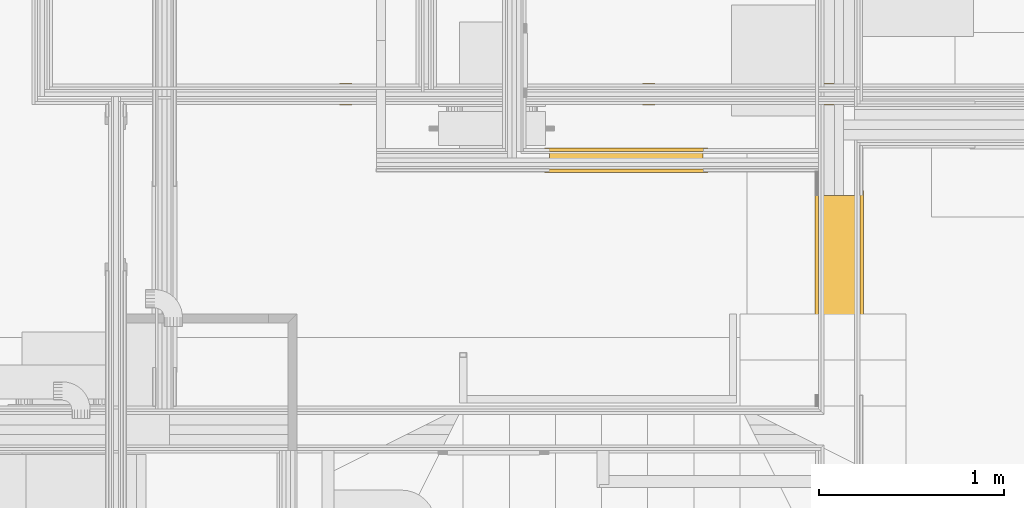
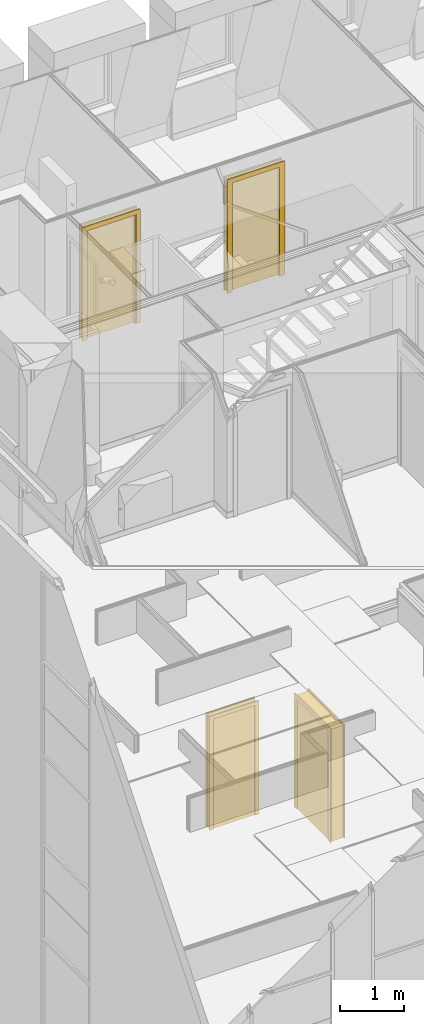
# One storey, part 108 of 169: 4 doors.
"""IFC2X3 building model written with IfcOpenShell, lengths in metres."""

import ifcopenshell
import ifcopenshell.guid

model = None  # the IFC model being written
_history = None  # IfcOwnerHistory: only IFC2X3 demands one
_inside = {}  # id of a spatial element -> (the spatial element, [elements in it])
_under = {}  # id of a project, library or spatial element -> (it, [spatial elements below it])
_declared = {}  # id of a project -> (the project, [libraries it declares])
_typed = {}  # id of a type object -> (the type object, [elements of that type])
_made_of = {}  # id of a material, layer set ... -> (it, [elements and type objects made of it])


def new_model(schema):
    """Start an empty IFC model of exactly this schema.

    Asked for "IFC4X3", IfcOpenShell would pick the latest addendum, in which some entities
    have other attributes; the version numbers below select the first issue.
    IFC2X3 requires an IfcOwnerHistory on every rooted entity: one is made here for all.
    """
    global model, _history
    if schema == "IFC4X3":
        model = ifcopenshell.file(schema_version=(4, 3, 0, 0))
    else:
        model = ifcopenshell.file(schema=schema)
    _inside.clear()
    _under.clear()
    _declared.clear()
    _typed.clear()
    _made_of.clear()
    _history = None
    if model.schema == "IFC2X3":
        org = make("IfcOrganization", Name="unknown")
        user = make(
            "IfcPersonAndOrganization",
            ThePerson=make("IfcPerson", FamilyName="unknown"),
            TheOrganization=org,
        )
        app = make(
            "IfcApplication",
            ApplicationDeveloper=org,
            Version="unknown",
            ApplicationFullName="unknown",
            ApplicationIdentifier="unknown",
        )
        _history = make(
            "IfcOwnerHistory",
            OwningUser=user,
            OwningApplication=app,
            ChangeAction="ADDED",
            CreationDate=0,
        )
    return model


def make(cls, **values):
    """One entity of the class cls with the attributes given. An attribute that is None is left unset."""
    return model.create_entity(
        cls, **{name: value for name, value in values.items() if value is not None}
    )


def entity(cls, *values):
    """Any entity or typed value of the class cls, its attributes in the order of the schema. None: left unset."""
    e = model.create_entity(cls)
    for i, value in enumerate(values):
        if value is not None:
            e[i] = value
    return e


def rooted(cls, **values):
    """An entity with a GlobalId (a new one), such as an element, a storey or a relation."""
    return make(cls, GlobalId=ifcopenshell.guid.new(), OwnerHistory=_history, **values)


def si_unit(unit_type, name, prefix=None):
    """IfcSIUnit, for example si_unit("LENGTHUNIT", "METRE", prefix="MILLI")."""
    return make("IfcSIUnit", UnitType=unit_type, Prefix=prefix, Name=name)


def converted_unit(unit_type, name, factor, base, dimensions=None, offset=None):
    """IfcConversionBasedUnit, such as the inch: factor (a typed value) times the base unit."""
    return make(
        "IfcConversionBasedUnit"
        if offset is None
        else "IfcConversionBasedUnitWithOffset",
        ConversionOffset=offset,
        Dimensions=None
        if dimensions is None
        else entity("IfcDimensionalExponents", *dimensions),
        UnitType=unit_type,
        Name=name,
        ConversionFactor=make(
            "IfcMeasureWithUnit", ValueComponent=factor, UnitComponent=base
        ),
    )


def derived_unit(unit_type, elements):
    """IfcDerivedUnit: a product of units, each with its exponent."""
    return make(
        "IfcDerivedUnit",
        Elements=[
            make("IfcDerivedUnitElement", Unit=unit, Exponent=power)
            for unit, power in elements
        ],
        UnitType=unit_type,
    )


def money_unit(currency):
    """IfcMonetaryUnit."""
    return make("IfcMonetaryUnit", Currency=currency)


def assignment(units):
    """IfcUnitAssignment: the units of a project."""
    return None if units is None else make("IfcUnitAssignment", Units=units)


def point(xyz):
    """IfcCartesianPoint."""
    return None if xyz is None else make("IfcCartesianPoint", Coordinates=xyz)


def direction(xyz):
    """IfcDirection."""
    return None if xyz is None else make("IfcDirection", DirectionRatios=xyz)


def frame(location, z_axis=None, x_axis=None):
    """IfcAxis2Placement3D, a coordinate frame: its origin and axes. An axis left out is left unset."""
    return make(
        "IfcAxis2Placement3D",
        Location=point(location),
        Axis=direction(z_axis),
        RefDirection=direction(x_axis),
    )


def origin_with_axes():
    """The frame at (0, 0, 0) with the z axis (0, 0, 1) and the x axis (1, 0, 0) written out."""
    return frame((0.0, 0.0, 0.0), z_axis=(0.0, 0.0, 1.0), x_axis=(1.0, 0.0, 0.0))


def place(relative_to, where):
    """IfcLocalPlacement: puts the frame where relative to a parent placement (None: the world)."""
    return make(
        "IfcLocalPlacement", PlacementRelTo=relative_to, RelativePlacement=where
    )


def context(
    kind, dimensions, precision=None, world=None, true_north=None, identifier=None
):
    """IfcGeometricRepresentationContext, for example the 3D "Model" context."""
    return make(
        "IfcGeometricRepresentationContext",
        ContextIdentifier=identifier,
        ContextType=kind,
        CoordinateSpaceDimension=dimensions,
        Precision=precision,
        WorldCoordinateSystem=world,
        TrueNorth=true_north,
    )


def subcontext(parent, identifier, kind, view, scale=None):
    """IfcGeometricRepresentationSubContext, for example "Body" below "Model"."""
    return make(
        "IfcGeometricRepresentationSubContext",
        ContextIdentifier=identifier,
        ContextType=kind,
        ParentContext=parent,
        TargetScale=scale,
        TargetView=view,
    )


def project(units=None, contexts=None):
    """IfcProject with its units and contexts."""
    return rooted(
        "IfcProject",
        Name="project",
        RepresentationContexts=contexts,
        UnitsInContext=assignment(units),
    )


def spatial(cls, under=None, at=None, **own):
    """A site, building, storey or space (cls), placed at a placement, below another one or the project."""
    s = rooted(cls, ObjectPlacement=at, **own)
    if under is not None:
        _under.setdefault(under.id(), (under, []))[1].append(s)
    return s


def faces_of(points, faces, orient=None, outer=None):
    """IfcFace entities. A face is a list of loops; a loop is a list of indices into points, from 0.

    orient and outer hold one flag for each loop. By default every Orientation is true, the
    first loop of a face is its IfcFaceOuterBound and the others are IfcFaceBound.
    """
    made = []
    for i, loops in enumerate(faces):
        bounds = []
        for j, loop in enumerate(loops):
            is_outer = j == 0 if outer is None else outer[i][j]
            bounds.append(
                make(
                    "IfcFaceOuterBound" if is_outer else "IfcFaceBound",
                    Bound=make("IfcPolyLoop", Polygon=[points[k] for k in loop]),
                    Orientation=True if orient is None else orient[i][j],
                )
            )
        made.append(make("IfcFace", Bounds=bounds))
    return made


def faceted_brep(points, faces, orient=None, outer=None, voids=None):
    """IfcFacetedBrep: a solid bounded by flat faces; with voids (closed shells), ...WithVoids."""
    shared = [point(p) for p in points]
    hull = make("IfcClosedShell", CfsFaces=faces_of(shared, faces, orient, outer))
    if voids is None:
        return make("IfcFacetedBrep", Outer=hull)
    return make(
        "IfcFacetedBrepWithVoids",
        Outer=hull,
        Voids=[
            make(cls, CfsFaces=faces_of(shared, fs, o, b)) for cls, fs, o, b in voids
        ],
    )


def shape(context_of_items, identifier, shape_type, items):
    """IfcShapeRepresentation: the items that make up one representation, for example the "Body"."""
    return make(
        "IfcShapeRepresentation",
        ContextOfItems=context_of_items,
        RepresentationIdentifier=identifier,
        RepresentationType=shape_type,
        Items=items,
    )


def material(Name=None, Category=None):
    """IfcMaterial."""
    return make("IfcMaterial", Name=Name, Category=Category)


def made_of(thing, what):
    """Note that an element or type object is made of a material, layer set ...; save() writes the relation."""
    if what is not None:
        _made_of.setdefault(what.id(), (what, []))[1].append(thing)
    return thing


def type_object(cls, material=None, **own):
    """A type object (cls), such as IfcWallType, which elements share."""
    return made_of(rooted(cls, **own), material)


def element(
    cls,
    number,
    at=None,
    inside=None,
    cuts=None,
    type_object=None,
    material=None,
    context=None,
    identifier="Body",
    shape_type=None,
    held_by="IfcProductDefinitionShape",
    body=None,
    shapes=None,
    **own,
):
    """One element of the class cls, such as IfcWall. Its Tag is "e" and its number.

    at: its placement. inside: the storey or other place that contains it. cuts: it is an
    opening in that element (IfcRelVoidsElement). A single representation is given by context,
    identifier, shape_type and body (its items); several are given by shapes. held_by: the class
    of the entity that holds the representations. save() writes the other relations.
    """
    e = rooted(cls, Tag="e%d" % number, ObjectPlacement=at, **own)
    if body is not None:
        shapes = [shape(context, identifier, shape_type, body)]
    if shapes is not None:
        e.Representation = make(held_by, Representations=shapes)
    if inside is not None:
        _inside.setdefault(inside.id(), (inside, []))[1].append(e)
    if cuts is not None:
        rooted(
            "IfcRelVoidsElement", RelatingBuildingElement=cuts, RelatedOpeningElement=e
        )
    if type_object is not None:
        _typed.setdefault(type_object.id(), (type_object, []))[1].append(e)
    return made_of(e, material)


def aggregate(whole, parts):
    """IfcRelAggregates: a whole, such as a stair, and the parts it consists of."""
    return rooted("IfcRelAggregates", RelatingObject=whole, RelatedObjects=parts)


def save(model, path):
    """Write the relations noted so far, then the file.

    IfcRelAggregates (storeys below a building ...), IfcRelContainedInSpatialStructure (elements
    in a storey), IfcRelDefinesByType, IfcRelAssociatesMaterial and IfcRelDeclares: one each for
    every whole, place, type object, material and project.
    """
    for whole, parts in _under.values():
        aggregate(whole, parts)
    for where, things in _inside.values():
        rooted(
            "IfcRelContainedInSpatialStructure",
            RelatedElements=things,
            RelatingStructure=where,
        )
    for kind, things in _typed.values():
        rooted("IfcRelDefinesByType", RelatedObjects=things, RelatingType=kind)
    for what, things in _made_of.values():
        rooted("IfcRelAssociatesMaterial", RelatedObjects=things, RelatingMaterial=what)
    for by, libraries in _declared.values():
        rooted("IfcRelDeclares", RelatingContext=by, RelatedDefinitions=libraries)
    model.write(path)


model = new_model("IFC2X3")

# Units and contexts
model_context = context("Model", 3, precision=1e-05, world=origin_with_axes(), true_north=direction((0.0, 1.0)))
body_context = subcontext(model_context, "Body", "Model", "MODEL_VIEW", scale=1.0)
ifc_project = project(units=[si_unit("LENGTHUNIT", "METRE"), si_unit("AREAUNIT", "SQUARE_METRE"), si_unit("VOLUMEUNIT", "CUBIC_METRE"), si_unit("ABSORBEDDOSEUNIT", "GRAY"), si_unit("AMOUNTOFSUBSTANCEUNIT", "MOLE"), si_unit("DOSEEQUIVALENTUNIT", "SIEVERT"), si_unit("ELECTRICCAPACITANCEUNIT", "FARAD"), si_unit("ELECTRICCHARGEUNIT", "COULOMB"), si_unit("ELECTRICCONDUCTANCEUNIT", "SIEMENS"), si_unit("ELECTRICCURRENTUNIT", "AMPERE"), si_unit("ELECTRICRESISTANCEUNIT", "OHM"), si_unit("ELECTRICVOLTAGEUNIT", "VOLT"), si_unit("ENERGYUNIT", "JOULE"), si_unit("FORCEUNIT", "NEWTON"), si_unit("FREQUENCYUNIT", "HERTZ"), si_unit("ILLUMINANCEUNIT", "LUX"), si_unit("INDUCTANCEUNIT", "HENRY"), si_unit("LUMINOUSFLUXUNIT", "LUMEN"), si_unit("LUMINOUSINTENSITYUNIT", "CANDELA"), si_unit("MAGNETICFLUXDENSITYUNIT", "TESLA"), si_unit("MAGNETICFLUXUNIT", "WEBER"), si_unit("MASSUNIT", "GRAM"), converted_unit("PLANEANGLEUNIT", "degree", entity("IfcReal", 0.0174532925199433), si_unit("PLANEANGLEUNIT", "RADIAN"), dimensions=[0, 0, 0, 0, 0, 0, 0]), si_unit("POWERUNIT", "WATT"), si_unit("PRESSUREUNIT", "PASCAL"), si_unit("RADIOACTIVITYUNIT", "BECQUEREL"), si_unit("SOLIDANGLEUNIT", "STERADIAN"), si_unit("THERMODYNAMICTEMPERATUREUNIT", "KELVIN"), si_unit("TIMEUNIT", "SECOND"), derived_unit("ACCELERATIONUNIT", [(si_unit("LENGTHUNIT", "METRE"), 1), (si_unit("TIMEUNIT", "SECOND"), -2)]), derived_unit("ANGULARVELOCITYUNIT", [(converted_unit("PLANEANGLEUNIT", "degree", entity("IfcReal", 0.0174532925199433), si_unit("PLANEANGLEUNIT", "RADIAN"), dimensions=[0, 0, 0, 0, 0, 0, 0]), 1), (si_unit("TIMEUNIT", "SECOND"), -1)]), derived_unit("CURVATUREUNIT", [(converted_unit("PLANEANGLEUNIT", "degree", entity("IfcReal", 0.0174532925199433), si_unit("PLANEANGLEUNIT", "RADIAN"), dimensions=[0, 0, 0, 0, 0, 0, 0]), 1), (si_unit("LENGTHUNIT", "METRE"), -1)]), derived_unit("DYNAMICVISCOSITYUNIT", [(si_unit("PRESSUREUNIT", "PASCAL"), 1), (si_unit("TIMEUNIT", "SECOND"), 1)]), derived_unit("HEATFLUXDENSITYUNIT", [(si_unit("POWERUNIT", "WATT"), 1), (si_unit("LENGTHUNIT", "METRE"), -2)]), derived_unit("HEATINGVALUEUNIT", [(si_unit("ENERGYUNIT", "JOULE"), 1), (si_unit("MASSUNIT", "GRAM"), -1)]), derived_unit("INTEGERCOUNTRATEUNIT", [(si_unit("TIMEUNIT", "SECOND"), -1)]), derived_unit("IONCONCENTRATIONUNIT", [(si_unit("MASSUNIT", "GRAM"), 1), (si_unit("VOLUMEUNIT", "CUBIC_METRE"), -1)]), derived_unit("ISOTHERMALMOISTURECAPACITYUNIT", [(si_unit("VOLUMEUNIT", "CUBIC_METRE"), 1), (si_unit("MASSUNIT", "GRAM"), -1)]), derived_unit("KINEMATICVISCOSITYUNIT", [(si_unit("AREAUNIT", "SQUARE_METRE"), 1), (si_unit("TIMEUNIT", "SECOND"), -1)]), derived_unit("LINEARFORCEUNIT", [(si_unit("FORCEUNIT", "NEWTON"), 1), (si_unit("LENGTHUNIT", "METRE"), -1)]), derived_unit("LINEARMOMENTUNIT", [(si_unit("FORCEUNIT", "NEWTON"), 1), (si_unit("LENGTHUNIT", "METRE"), -1)]), derived_unit("LINEARSTIFFNESSUNIT", [(si_unit("FORCEUNIT", "NEWTON"), 1), (si_unit("LENGTHUNIT", "METRE"), -1)]), derived_unit("LINEARVELOCITYUNIT", [(si_unit("LENGTHUNIT", "METRE"), 1), (si_unit("TIMEUNIT", "SECOND"), -1)]), derived_unit("LUMINOUSINTENSITYDISTRIBUTIONUNIT", [(si_unit("LUMINOUSINTENSITYUNIT", "CANDELA"), 1), (si_unit("LUMINOUSFLUXUNIT", "LUMEN"), -1)]), derived_unit("MASSDENSITYUNIT", [(si_unit("MASSUNIT", "GRAM"), 1), (si_unit("VOLUMEUNIT", "CUBIC_METRE"), -1)]), derived_unit("MASSFLOWRATEUNIT", [(si_unit("MASSUNIT", "GRAM"), 1), (si_unit("TIMEUNIT", "SECOND"), -1)]), derived_unit("MASSPERLENGTHUNIT", [(si_unit("MASSUNIT", "GRAM"), 1), (si_unit("LENGTHUNIT", "METRE"), -1)]), derived_unit("MODULUSOFELASTICITYUNIT", [(si_unit("FORCEUNIT", "NEWTON"), 1), (si_unit("AREAUNIT", "SQUARE_METRE"), -1)]), derived_unit("MODULUSOFLINEARSUBGRADEREACTIONUNIT", [(si_unit("FORCEUNIT", "NEWTON"), 1), (si_unit("LENGTHUNIT", "METRE"), -2)]), derived_unit("MODULUSOFROTATIONALSUBGRADEREACTIONUNIT", [(si_unit("FORCEUNIT", "NEWTON"), 1), (si_unit("LENGTHUNIT", "METRE"), 1)]), derived_unit("MODULUSOFSUBGRADEREACTIONUNIT", [(si_unit("FORCEUNIT", "NEWTON"), 1), (si_unit("VOLUMEUNIT", "CUBIC_METRE"), -1)]), derived_unit("MOISTUREDIFFUSIVITYUNIT", [(si_unit("VOLUMEUNIT", "CUBIC_METRE"), 1), (si_unit("TIMEUNIT", "SECOND"), -1)]), derived_unit("MOLECULARWEIGHTUNIT", [(si_unit("MASSUNIT", "GRAM"), 1), (si_unit("AMOUNTOFSUBSTANCEUNIT", "MOLE"), -1)]), derived_unit("PLANARFORCEUNIT", [(si_unit("FORCEUNIT", "NEWTON"), 1), (si_unit("LENGTHUNIT", "METRE"), -2)]), derived_unit("ROTATIONALFREQUENCYUNIT", [(si_unit("TIMEUNIT", "SECOND"), -1)]), derived_unit("ROTATIONALMASSUNIT", [(si_unit("MASSUNIT", "GRAM"), 1), (si_unit("LENGTHUNIT", "METRE"), 2)]), derived_unit("ROTATIONALSTIFFNESSUNIT", [(si_unit("FORCEUNIT", "NEWTON"), 1), (si_unit("LENGTHUNIT", "METRE"), 1), (converted_unit("PLANEANGLEUNIT", "degree", entity("IfcReal", 0.0174532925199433), si_unit("PLANEANGLEUNIT", "RADIAN"), dimensions=[0, 0, 0, 0, 0, 0, 0]), -1)]), derived_unit("SECTIONAREAINTEGRALUNIT", [(si_unit("LENGTHUNIT", "METRE"), 5)]), derived_unit("SECTIONMODULUSUNIT", [(si_unit("LENGTHUNIT", "METRE"), 3)]), derived_unit("SHEARMODULUSUNIT", [(si_unit("FORCEUNIT", "NEWTON"), 1), (si_unit("AREAUNIT", "SQUARE_METRE"), -1)]), derived_unit("SOUNDPOWERUNIT", [(si_unit("ENERGYUNIT", "JOULE"), 1), (si_unit("TIMEUNIT", "SECOND"), -1)]), derived_unit("SPECIFICHEATCAPACITYUNIT", [(si_unit("FORCEUNIT", "NEWTON"), 1), (si_unit("MASSUNIT", "GRAM"), -1), (si_unit("THERMODYNAMICTEMPERATUREUNIT", "KELVIN"), -1)]), derived_unit("TEMPERATUREGRADIENTUNIT", [(si_unit("THERMODYNAMICTEMPERATUREUNIT", "KELVIN"), 1), (si_unit("LENGTHUNIT", "METRE"), -1)]), derived_unit("THERMALADMITTANCEUNIT", [(si_unit("POWERUNIT", "WATT"), 1), (si_unit("AREAUNIT", "SQUARE_METRE"), -1), (si_unit("THERMODYNAMICTEMPERATUREUNIT", "KELVIN"), -1)]), derived_unit("THERMALCONDUCTANCEUNIT", [(si_unit("POWERUNIT", "WATT"), 1), (si_unit("LENGTHUNIT", "METRE"), -1), (si_unit("THERMODYNAMICTEMPERATUREUNIT", "KELVIN"), -1)]), derived_unit("THERMALEXPANSIONCOEFFICIENTUNIT", [(si_unit("THERMODYNAMICTEMPERATUREUNIT", "KELVIN"), -1)]), derived_unit("THERMALRESISTANCEUNIT", [(si_unit("AREAUNIT", "SQUARE_METRE"), 1), (si_unit("POWERUNIT", "WATT"), -1)]), derived_unit("THERMALTRANSMITTANCEUNIT", [(si_unit("POWERUNIT", "WATT"), 1), (si_unit("AREAUNIT", "SQUARE_METRE"), -1), (si_unit("THERMODYNAMICTEMPERATUREUNIT", "KELVIN"), -1)]), derived_unit("TORQUEUNIT", [(si_unit("FORCEUNIT", "NEWTON"), 1), (si_unit("LENGTHUNIT", "METRE"), 1)]), derived_unit("VAPORPERMEABILITYUNIT", [(si_unit("MASSUNIT", "GRAM"), 1), (si_unit("TIMEUNIT", "SECOND"), -1)]), derived_unit("VOLUMETRICFLOWRATEUNIT", [(si_unit("VOLUMEUNIT", "CUBIC_METRE"), 1), (si_unit("TIMEUNIT", "SECOND"), -1)]), derived_unit("WARPINGCONSTANTUNIT", [(si_unit("LENGTHUNIT", "METRE"), 6)]), derived_unit("WARPINGMOMENTUNIT", [(si_unit("FORCEUNIT", "NEWTON"), 1), (si_unit("LENGTHUNIT", "METRE"), 2)]), money_unit("GBP")], contexts=[model_context])

# Site, building, storey, space
site_placement = place(None, origin_with_axes())
site = spatial("IfcSite", under=ifc_project, at=site_placement, Name="Site", CompositionType="ELEMENT")
building_placement = place(site_placement, origin_with_axes())
building = spatial("IfcBuilding", under=site, at=building_placement, Name="Building01", CompositionType="ELEMENT")
storey_placement = place(building_placement, frame((0.0, 0.0, 5.15), z_axis=(0.0, 0.0, 1.0), x_axis=(1.0, 0.0, 0.0)))
storey = spatial("IfcBuildingStorey", under=building, at=storey_placement, Name="1F", CompositionType="ELEMENT", Elevation=5.15)
space_1_placement = place(storey_placement, frame((1.009939, 13.890379, 9.86), z_axis=(0.0, 0.0, 1.0), x_axis=(0.0, -1.0, 0.0)))
space_1 = spatial("IfcSpace", under=storey, at=space_1_placement, Name="26", CompositionType="ELEMENT", InteriorOrExteriorSpace="NOTDEFINED")

# Doors
ifc_material = material(Name="A_BSUK_Doors")
door_style_1 = type_object("IfcDoorStyle", Name="A-Doors-SingleFlush", ConstructionType="USERDEFINED", OperationType="SINGLE_SWING_RIGHT", ParameterTakesPrecedence=False, Sizeable=False)
door_1_placement = place(storey_placement, frame((6.180024, 10.179939, 9.83), z_axis=(0.0, 0.0, 1.0), x_axis=(1.0, 0.0, 0.0)))
element("IfcDoor", 1, at=door_1_placement, inside=space_1, type_object=door_style_1, material=ifc_material, Name="4.29", ObjectType="A-Doors-SingleFlush", OverallHeight=2.16900000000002, OverallWidth=1.03800000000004, context=body_context, shape_type="Brep", body=[
    faceted_brep([(0.9, -0.099, 0.0), (0.969, -0.099, 0.0), (0.969, -0.099, 2.169), (-0.069, -0.099, 2.169), (-0.069, -0.099, 0.0), (0.0, -0.099, 0.0), (0.0, -0.099, 2.1), (0.9, -0.099, 2.1), (-0.069, -0.08, 0.0), (-0.069, -0.08, 2.169), (0.969, -0.08, 2.169), (0.969, -0.08, 0.0), (0.9, 0.019, 0.0), (0.969, 0.019, 0.0), (0.969, 0.0, 0.0), (0.942, 0.0, 0.0), (0.942, -0.08, 0.0), (0.9, 0.019, 2.1), (0.0, 0.019, 2.1), (0.0, 0.019, 0.0), (-0.069, 0.019, 0.0), (-0.069, 0.019, 2.169), (0.969, 0.019, 2.169), (0.969, 0.0, 2.169), (0.942, -0.08, 2.142), (0.942, 0.0, 2.142), (-0.042, -0.08, 2.142), (-0.042, 0.0, 2.142), (-0.042, -0.08, 0.0), (-0.042, 0.0, 0.0), (-0.069, 0.0, 2.169), (-0.069, 0.0, 0.0)], [[[0, 1, 2, 3, 4, 5, 6, 7]], [[8, 4, 3, 9]], [[10, 2, 1, 11]], [[9, 3, 2, 10]], [[12, 13, 14, 15, 16, 11, 1, 0]], [[7, 17, 12, 0]], [[6, 18, 17, 7]], [[18, 19, 20, 21, 22, 13, 12, 17]], [[5, 19, 18, 6]], [[13, 22, 23, 14]], [[24, 16, 15, 25]], [[26, 24, 25, 27]], [[11, 16, 24, 26, 28, 8, 9, 10]], [[27, 29, 28, 26]], [[25, 15, 14, 23, 30, 31, 29, 27]], [[5, 4, 8, 28, 29, 31, 20, 19]], [[30, 21, 20, 31]], [[23, 22, 21, 30]]]),
    faceted_brep([(0.0, -0.09, 2.1), (0.0, -0.04, 2.1), (0.0, -0.04, 0.0), (0.0, -0.09, 0.0), (0.875, -0.09, 0.0), (0.9, -0.09, 0.0), (0.9, -0.09, 2.1), (0.025, -0.09, 0.0), (0.025, -0.09, 2.075), (0.875, -0.09, 2.075), (0.875, -0.04, 0.0), (0.9, -0.04, 0.0), (0.9, -0.04, 2.1), (0.025, -0.04, 2.075), (0.025, -0.04, 0.0), (0.875, -0.04, 2.075)], [[[0, 1, 2, 3]], [[4, 5, 6, 0, 3, 7, 8, 9]], [[10, 11, 5, 4]], [[6, 12, 1, 0]], [[5, 11, 12, 6]], [[13, 14, 2, 1, 12, 11, 10, 15]], [[7, 14, 13, 8]], [[7, 3, 2, 14]], [[9, 15, 10, 4]], [[8, 13, 15, 9]]]),
    faceted_brep([(0.9, -0.04, 0.0), (0.9, 0.0, 0.0), (0.9, 0.0, 2.1), (0.9, -0.04, 2.1), (0.0, -0.04, 2.1), (0.0, 0.0, 2.1), (0.0, 0.0, 0.0), (0.0, -0.04, 0.0)], [[[0, 1, 2, 3]], [[4, 5, 6, 7]], [[7, 6, 1, 0]], [[3, 4, 7, 0]], [[3, 2, 5, 4]], [[1, 6, 5, 2]]]),
])
door_style_2 = type_object("IfcDoorStyle", Name="A-Doors-SingleFlush", ConstructionType="USERDEFINED", OperationType="SINGLE_SWING_LEFT", ParameterTakesPrecedence=False, Sizeable=False)
door_2_placement = place(storey_placement, frame((3.57, 10.179939, 9.83), z_axis=(0.0, 0.0, 1.0), x_axis=(1.0, 0.0, 0.0)))
element("IfcDoor", 2, at=door_2_placement, inside=space_1, type_object=door_style_2, material=ifc_material, Name="4.27", ObjectType="A-Doors-SingleFlush", OverallHeight=2.16900000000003, OverallWidth=1.03800000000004, context=body_context, shape_type="Brep", body=[
    faceted_brep([(0.0, -0.099, 2.1), (0.9, -0.099, 2.1), (0.9, -0.099, 0.0), (0.969, -0.099, 0.0), (0.969, -0.099, 2.169), (-0.069, -0.099, 2.169), (-0.069, -0.099, 0.0), (0.0, -0.099, 0.0), (0.969, -0.08, 2.169), (0.969, -0.08, 0.0), (-0.069, -0.08, 0.0), (-0.069, -0.08, 2.169), (-0.042, -0.08, 0.0), (-0.042, 0.0, 0.0), (-0.069, 0.0, 0.0), (-0.069, 0.019, 0.0), (0.0, 0.019, 0.0), (0.0, 0.019, 2.1), (0.9, 0.019, 2.1), (-0.069, 0.019, 2.169), (0.969, 0.019, 2.169), (0.969, 0.019, 0.0), (0.9, 0.019, 0.0), (-0.069, 0.0, 2.169), (-0.042, 0.0, 2.142), (-0.042, -0.08, 2.142), (0.942, 0.0, 2.142), (0.942, -0.08, 2.142), (0.942, -0.08, 0.0), (0.942, 0.0, 0.0), (0.969, 0.0, 0.0), (0.969, 0.0, 2.169)], [[[0, 1, 2, 3, 4, 5, 6, 7]], [[8, 4, 3, 9]], [[10, 6, 5, 11]], [[11, 5, 4, 8]], [[7, 6, 10, 12, 13, 14, 15, 16]], [[7, 16, 17, 0]], [[0, 17, 18, 1]], [[17, 16, 15, 19, 20, 21, 22, 18]], [[1, 18, 22, 2]], [[14, 23, 19, 15]], [[24, 13, 12, 25]], [[26, 24, 25, 27]], [[11, 8, 9, 28, 27, 25, 12, 10]], [[27, 28, 29, 26]], [[26, 29, 30, 31, 23, 14, 13, 24]], [[22, 21, 30, 29, 28, 9, 3, 2]], [[30, 21, 20, 31]], [[31, 20, 19, 23]]]),
    faceted_brep([(0.9, -0.09, 0.0), (0.9, -0.04, 0.0), (0.9, -0.04, 2.1), (0.9, -0.09, 2.1), (0.025, -0.09, 2.075), (0.875, -0.09, 2.075), (0.875, -0.09, 0.0), (0.0, -0.09, 2.1), (0.0, -0.09, 0.0), (0.025, -0.09, 0.0), (0.0, -0.04, 0.0), (0.025, -0.04, 0.0), (0.0, -0.04, 2.1), (0.025, -0.04, 2.075), (0.875, -0.04, 0.0), (0.875, -0.04, 2.075)], [[[0, 1, 2, 3]], [[4, 5, 6, 0, 3, 7, 8, 9]], [[9, 8, 10, 11]], [[3, 2, 12, 7]], [[7, 12, 10, 8]], [[13, 11, 10, 12, 2, 1, 14, 15]], [[5, 15, 14, 6]], [[14, 1, 0, 6]], [[9, 11, 13, 4]], [[4, 13, 15, 5]]]),
    faceted_brep([(0.0, -0.04, 2.1), (0.0, 0.0, 2.1), (0.0, 0.0, 0.0), (0.0, -0.04, 0.0), (0.9, -0.04, 0.0), (0.9, 0.0, 0.0), (0.9, 0.0, 2.1), (0.9, -0.04, 2.1)], [[[0, 1, 2, 3]], [[4, 5, 6, 7]], [[3, 2, 5, 4]], [[3, 4, 7, 0]], [[7, 6, 1, 0]], [[1, 6, 5, 2]]]),
])

# Space
space_2_placement = place(storey_placement, frame((3.569669, 8.43567, 0.017975), z_axis=(0.0, 0.0, 1.0), x_axis=(1.0, 0.0, 0.0)))
space_2 = spatial("IfcSpace", under=storey, at=space_2_placement, Name="corridor", CompositionType="ELEMENT", InteriorOrExteriorSpace="NOTDEFINED")

# Door
door_style_3 = type_object("IfcDoorStyle", Name="A-Doors-SingleFlush", ConstructionType="USERDEFINED", OperationType="SINGLE_SWING_LEFT", ParameterTakesPrecedence=False, Sizeable=False)
door_3_placement = place(storey_placement, frame((7.064669, 8.550704, 0.0), z_axis=(0.0, 0.0, 1.0), x_axis=(0.0, 1.0, 0.0)))
element("IfcDoor", 3, at=door_3_placement, inside=space_2, type_object=door_style_3, material=ifc_material, Name="1.20", ObjectType="A-Doors-SingleFlush", OverallHeight=2.16900000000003, OverallWidth=1.13800000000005, context=body_context, shape_type="Brep", body=[
    faceted_brep([(0.0, -0.244, 2.1), (1.0, -0.244, 2.1), (1.0, -0.244, 0.0), (1.069, -0.244, 0.0), (1.069, -0.244, 2.169), (-0.069, -0.244, 2.169), (-0.069, -0.244, 0.0), (0.0, -0.244, 0.0), (1.069, -0.225, 2.169), (1.069, -0.225, 0.0), (-0.069, -0.225, 0.0), (-0.069, -0.225, 2.169), (-0.042, -0.225, 0.0), (-0.042, 0.0, 0.0), (-0.069, 0.0, 0.0), (-0.069, 0.019, 0.0), (0.0, 0.019, 0.0), (0.0, 0.019, 2.1), (1.0, 0.019, 2.1), (-0.069, 0.019, 2.169), (1.069, 0.019, 2.169), (1.069, 0.019, 0.0), (1.0, 0.019, 0.0), (-0.069, 0.0, 2.169), (-0.042, 0.0, 2.142), (-0.042, -0.225, 2.142), (1.042, 0.0, 2.142), (1.042, -0.225, 2.142), (1.042, -0.225, 0.0), (1.042, 0.0, 0.0), (1.069, 0.0, 0.0), (1.069, 0.0, 2.169)], [[[0, 1, 2, 3, 4, 5, 6, 7]], [[8, 4, 3, 9]], [[10, 6, 5, 11]], [[11, 5, 4, 8]], [[7, 6, 10, 12, 13, 14, 15, 16]], [[7, 16, 17, 0]], [[0, 17, 18, 1]], [[17, 16, 15, 19, 20, 21, 22, 18]], [[1, 18, 22, 2]], [[14, 23, 19, 15]], [[24, 13, 12, 25]], [[26, 24, 25, 27]], [[11, 8, 9, 28, 27, 25, 12, 10]], [[27, 28, 29, 26]], [[26, 29, 30, 31, 23, 14, 13, 24]], [[22, 21, 30, 29, 28, 9, 3, 2]], [[30, 21, 20, 31]], [[31, 20, 19, 23]]]),
    faceted_brep([(1.0, -0.09, 0.0), (1.0, -0.04, 0.0), (1.0, -0.04, 2.1), (1.0, -0.09, 2.1), (0.025, -0.09, 2.075), (0.975, -0.09, 2.075), (0.975, -0.09, 0.0), (0.0, -0.09, 2.1), (0.0, -0.09, 0.0), (0.025, -0.09, 0.0), (0.0, -0.04, 0.0), (0.025, -0.04, 0.0), (0.0, -0.04, 2.1), (0.025, -0.04, 2.075), (0.975, -0.04, 0.0), (0.975, -0.04, 2.075)], [[[0, 1, 2, 3]], [[4, 5, 6, 0, 3, 7, 8, 9]], [[9, 8, 10, 11]], [[3, 2, 12, 7]], [[7, 12, 10, 8]], [[13, 11, 10, 12, 2, 1, 14, 15]], [[5, 15, 14, 6]], [[14, 1, 0, 6]], [[9, 11, 13, 4]], [[4, 13, 15, 5]]]),
    faceted_brep([(0.0, -0.04, 2.1), (0.0, 0.0, 2.1), (0.0, 0.0, 0.0), (0.0, -0.04, 0.0), (1.0, -0.04, 0.0), (1.0, 0.0, 0.0), (1.0, 0.0, 2.1), (1.0, -0.04, 2.1)], [[[0, 1, 2, 3]], [[4, 5, 6, 7]], [[3, 2, 5, 4]], [[3, 4, 7, 0]], [[7, 6, 1, 0]], [[1, 6, 5, 2]]]),
])

# Space
space_3_placement = place(storey_placement, frame((7.064669, 14.582, 0.017975), z_axis=(0.0, 0.0, 1.0), x_axis=(-1.0, 0.0, 0.0)))
space_3 = spatial("IfcSpace", under=storey, at=space_3_placement, Name="07", CompositionType="ELEMENT", InteriorOrExteriorSpace="NOTDEFINED")

# Door
door_style_4 = type_object("IfcDoorStyle", Name="A-Doors-SingleFlush", ConstructionType="USERDEFINED", OperationType="SINGLE_SWING_RIGHT", ParameterTakesPrecedence=False, Sizeable=False)
door_4_placement = place(storey_placement, frame((6.398669, 9.73567, 0.0), z_axis=(0.0, 0.0, 1.0), x_axis=(-1.0, 0.0, 0.0)))
element("IfcDoor", 4, at=door_4_placement, inside=space_3, type_object=door_style_4, material=ifc_material, Name="1.22", ObjectType="A-Doors-SingleFlush", OverallHeight=2.16900000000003, OverallWidth=0.888000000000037, context=body_context, shape_type="Brep", body=[
    faceted_brep([(0.75, -0.114, 0.0), (0.819, -0.114, 0.0), (0.819, -0.114, 2.169), (-0.069, -0.114, 2.169), (-0.069, -0.114, 0.0), (0.0, -0.114, 0.0), (0.0, -0.114, 2.1), (0.75, -0.114, 2.1), (-0.069, -0.095, 0.0), (-0.069, -0.095, 2.169), (0.819, -0.095, 2.169), (0.819, -0.095, 0.0), (0.75, 0.019, 0.0), (0.819, 0.019, 0.0), (0.819, 0.0, 0.0), (0.792, 0.0, 0.0), (0.792, -0.095, 0.0), (0.75, 0.019, 2.1), (0.0, 0.019, 2.1), (0.0, 0.019, 0.0), (-0.069, 0.019, 0.0), (-0.069, 0.019, 2.169), (0.819, 0.019, 2.169), (0.819, 0.0, 2.169), (0.792, -0.095, 2.142), (0.792, 0.0, 2.142), (-0.042, -0.095, 2.142), (-0.042, 0.0, 2.142), (-0.042, -0.095, 0.0), (-0.042, 0.0, 0.0), (-0.069, 0.0, 2.169), (-0.069, 0.0, 0.0)], [[[0, 1, 2, 3, 4, 5, 6, 7]], [[8, 4, 3, 9]], [[10, 2, 1, 11]], [[9, 3, 2, 10]], [[12, 13, 14, 15, 16, 11, 1, 0]], [[7, 17, 12, 0]], [[6, 18, 17, 7]], [[18, 19, 20, 21, 22, 13, 12, 17]], [[5, 19, 18, 6]], [[13, 22, 23, 14]], [[24, 16, 15, 25]], [[26, 24, 25, 27]], [[11, 16, 24, 26, 28, 8, 9, 10]], [[27, 29, 28, 26]], [[25, 15, 14, 23, 30, 31, 29, 27]], [[5, 4, 8, 28, 29, 31, 20, 19]], [[30, 21, 20, 31]], [[23, 22, 21, 30]]]),
    faceted_brep([(0.0, -0.09, 2.1), (0.0, -0.04, 2.1), (0.0, -0.04, 0.0), (0.0, -0.09, 0.0), (0.725, -0.09, 0.0), (0.75, -0.09, 0.0), (0.75, -0.09, 2.1), (0.025, -0.09, 0.0), (0.025, -0.09, 2.075), (0.725, -0.09, 2.075), (0.725, -0.04, 0.0), (0.75, -0.04, 0.0), (0.75, -0.04, 2.1), (0.025, -0.04, 2.075), (0.025, -0.04, 0.0), (0.725, -0.04, 2.075)], [[[0, 1, 2, 3]], [[4, 5, 6, 0, 3, 7, 8, 9]], [[10, 11, 5, 4]], [[6, 12, 1, 0]], [[5, 11, 12, 6]], [[13, 14, 2, 1, 12, 11, 10, 15]], [[7, 14, 13, 8]], [[7, 3, 2, 14]], [[9, 15, 10, 4]], [[8, 13, 15, 9]]]),
    faceted_brep([(0.75, -0.04, 0.0), (0.75, 0.0, 0.0), (0.75, 0.0, 2.1), (0.75, -0.04, 2.1), (0.0, -0.04, 2.1), (0.0, 0.0, 2.1), (0.0, 0.0, 0.0), (0.0, -0.04, 0.0)], [[[0, 1, 2, 3]], [[4, 5, 6, 7]], [[7, 6, 1, 0]], [[3, 4, 7, 0]], [[3, 2, 5, 4]], [[1, 6, 5, 2]]]),
])

save(model, "model.ifc")
